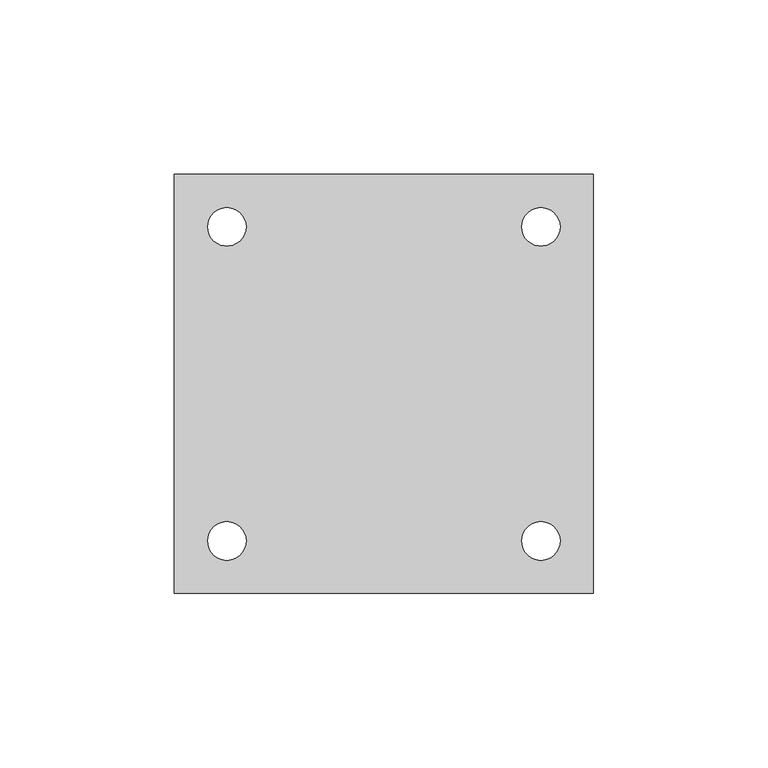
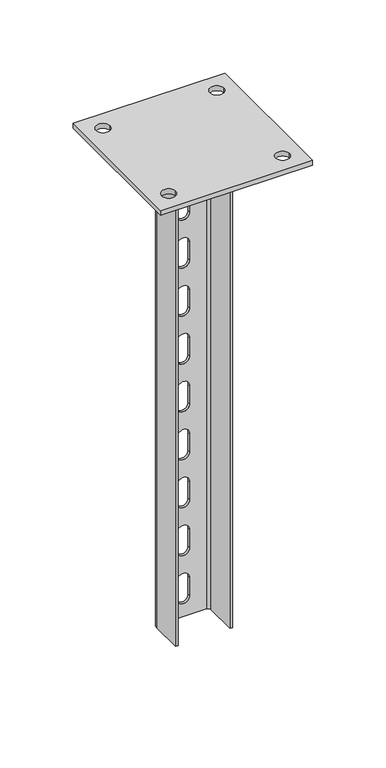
"""IFC4 building model written with IfcOpenShell, lengths in millimetres: proxy geometry, КМ Профиль_Стойка потолочная усиленная PSTU : PSTU400."""

from ifc_helpers import new_model, si_unit, point, frame, frame_2d, origin, place, context, project, spatial, polyline, circle_curve, trimmed, segment, composite_curve, outline, extrude, source, transform, mapped, element, save
from ifc_brep_helpers import plane_surface, cylinder_surface, revolved_surface, advanced_brep


def generic_models_3aaec662(model_context):
    return source(origin(), model_context, "Body", "SolidModel", [
        advanced_brep(
        [(22.5, -15.0, -4.0), (22.5, 11.0, -4.0), (18.5, 15.0, -4.0), (-18.5, 15.0, -4.0), (-22.5, 11.0, -4.0), (-22.5, -15.0, -4.0), (-20.5, -15.0, -4.0), (-20.5, 11.0, -4.0), (-18.5, 13.0, -4.0), (18.5, 13.0, -4.0), (20.5, 11.0, -4.0), (20.5, -15.0, -4.0), (22.5, 11.0, -404.0), (22.5, -15.0, -404.0), (20.5, -15.0, -404.0), (20.5, 11.0, -404.0), (18.5, 13.0, -404.0), (-18.5, 13.0, -404.0), (-20.5, 11.0, -404.0), (-20.5, -15.0, -404.0), (-22.5, -15.0, -404.0), (-22.5, 11.0, -404.0), (-18.5, 15.0, -404.0), (18.5, 15.0, -404.0), (-5.0, 15.0, -53.0), (-5.0, 15.0, -68.0), (5.0, 15.0, -68.0), (5.0, 15.0, -53.0), (-5.0, 15.0, -93.0), (-5.0, 15.0, -108.0), (5.0, 15.0, -108.0), (5.0, 15.0, -93.0), (-5.0, 15.0, -133.0), (-5.0, 15.0, -148.0), (5.0, 15.0, -148.0), (5.0, 15.0, -133.0), (-5.0, 15.0, -173.0), (-5.0, 15.0, -188.0), (5.0, 15.0, -188.0), (5.0, 15.0, -173.0), (-5.0, 15.0, -213.0), (-5.0, 15.0, -228.0), (5.0, 15.0, -228.0), (5.0, 15.0, -213.0), (-5.0, 15.0, -253.0), (-5.0, 15.0, -268.0), (5.0, 15.0, -268.0), (5.0, 15.0, -253.0), (-5.0, 15.0, -293.0), (-5.0, 15.0, -308.0), (5.0, 15.0, -308.0), (5.0, 15.0, -293.0), (-5.0, 15.0, -333.0), (-5.0, 15.0, -348.0), (5.0, 15.0, -348.0), (5.0, 15.0, -333.0), (-5.0, 15.0, -373.0), (-5.0, 15.0, -388.0), (5.0, 15.0, -388.0), (5.0, 15.0, -373.0), (-5.0, 15.0, -13.0), (-5.0, 15.0, -28.0), (5.0, 15.0, -28.0), (5.0, 15.0, -13.0), (-5.0, 13.0, -68.0), (-5.0, 13.0, -53.0), (5.0, 13.0, -53.0), (5.0, 13.0, -68.0), (-5.0, 13.0, -108.0), (-5.0, 13.0, -93.0), (5.0, 13.0, -93.0), (5.0, 13.0, -108.0), (-5.0, 13.0, -148.0), (-5.0, 13.0, -133.0), (5.0, 13.0, -133.0), (5.0, 13.0, -148.0), (-5.0, 13.0, -188.0), (-5.0, 13.0, -173.0), (5.0, 13.0, -173.0), (5.0, 13.0, -188.0), (-5.0, 13.0, -228.0), (-5.0, 13.0, -213.0), (5.0, 13.0, -213.0), (5.0, 13.0, -228.0), (-5.0, 13.0, -268.0), (-5.0, 13.0, -253.0), (5.0, 13.0, -253.0), (5.0, 13.0, -268.0), (-5.0, 13.0, -308.0), (-5.0, 13.0, -293.0), (5.0, 13.0, -293.0), (5.0, 13.0, -308.0), (-5.0, 13.0, -348.0), (-5.0, 13.0, -333.0), (5.0, 13.0, -333.0), (5.0, 13.0, -348.0), (-5.0, 13.0, -388.0), (-5.0, 13.0, -373.0), (5.0, 13.0, -373.0), (5.0, 13.0, -388.0), (-5.0, 13.0, -28.0), (-5.0, 13.0, -13.0), (5.0, 13.0, -13.0), (5.0, 13.0, -28.0)],
        [
            (0, 1),
            (1, 2, circle_curve(frame((18.5, 11.0, -4.0), z_axis=(0.0, 0.0, 1.0), x_axis=(1.0, 0.0, 0.0)), 4.0)),
            (2, 3),
            (3, 4, circle_curve(frame((-18.5, 11.0, -4.0), z_axis=(0.0, 0.0, 1.0), x_axis=(1.0, 0.0, 0.0)), 4.0)),
            (4, 5),
            (5, 6),
            (6, 7),
            (7, 8, circle_curve(frame((-18.5, 11.0, -4.0), z_axis=(0.0, 0.0, -1.0), x_axis=(1.0, 0.0, 0.0)), 2.0)),
            (8, 9),
            (9, 10, circle_curve(frame((18.5, 11.0, -4.0), z_axis=(0.0, 0.0, -1.0), x_axis=(1.0, 0.0, 0.0)), 2.0)),
            (10, 11),
            (11, 0),
            (12, 13),
            (13, 14),
            (14, 15),
            (15, 16, circle_curve(frame((18.5, 11.0, -404.0), z_axis=(0.0, 0.0, 1.0), x_axis=(1.0, 0.0, 0.0)), 2.0)),
            (16, 17),
            (17, 18, circle_curve(frame((-18.5, 11.0, -404.0), z_axis=(0.0, 0.0, 1.0), x_axis=(1.0, 0.0, 0.0)), 2.0)),
            (18, 19),
            (19, 20),
            (20, 21),
            (21, 22, circle_curve(frame((-18.5, 11.0, -404.0), z_axis=(0.0, 0.0, -1.0), x_axis=(1.0, 0.0, 0.0)), 4.0)),
            (22, 23),
            (23, 12, circle_curve(frame((18.5, 11.0, -404.0), z_axis=(0.0, 0.0, -1.0), x_axis=(1.0, 0.0, 0.0)), 4.0)),
            (0, 13),
            (12, 1),
            (23, 2),
            (22, 3),
            (24, 25),
            (25, 26, circle_curve(frame((0.0, 15.0, -68.0), z_axis=(0.0, -1.0, 0.0), x_axis=(0.0, 0.0, -1.0)), 5.0)),
            (26, 27),
            (27, 24, circle_curve(frame((0.0, 15.0, -53.0), z_axis=(0.0, -1.0, 0.0), x_axis=(0.0, 0.0, -1.0)), 5.0)),
            (28, 29),
            (29, 30, circle_curve(frame((0.0, 15.0, -108.0), z_axis=(0.0, -1.0, 0.0), x_axis=(0.0, 0.0, -1.0)), 5.0)),
            (30, 31),
            (31, 28, circle_curve(frame((0.0, 15.0, -93.0), z_axis=(0.0, -1.0, 0.0), x_axis=(0.0, 0.0, -1.0)), 5.0)),
            (32, 33),
            (33, 34, circle_curve(frame((0.0, 15.0, -148.0), z_axis=(0.0, -1.0, 0.0), x_axis=(0.0, 0.0, -1.0)), 5.0)),
            (34, 35),
            (35, 32, circle_curve(frame((0.0, 15.0, -133.0), z_axis=(0.0, -1.0, 0.0), x_axis=(0.0, 0.0, -1.0)), 5.0)),
            (36, 37),
            (37, 38, circle_curve(frame((0.0, 15.0, -188.0), z_axis=(0.0, -1.0, 0.0), x_axis=(0.0, 0.0, -1.0)), 5.0)),
            (38, 39),
            (39, 36, circle_curve(frame((0.0, 15.0, -173.0), z_axis=(0.0, -1.0, 0.0), x_axis=(0.0, 0.0, -1.0)), 5.0)),
            (40, 41),
            (41, 42, circle_curve(frame((0.0, 15.0, -228.0), z_axis=(0.0, -1.0, 0.0), x_axis=(0.0, 0.0, -1.0)), 5.0)),
            (42, 43),
            (43, 40, circle_curve(frame((0.0, 15.0, -213.0), z_axis=(0.0, -1.0, 0.0), x_axis=(0.0, 0.0, -1.0)), 5.0)),
            (44, 45),
            (45, 46, circle_curve(frame((0.0, 15.0, -268.0), z_axis=(0.0, -1.0, 0.0), x_axis=(0.0, 0.0, -1.0)), 5.0)),
            (46, 47),
            (47, 44, circle_curve(frame((0.0, 15.0, -253.0), z_axis=(0.0, -1.0, 0.0), x_axis=(0.0, 0.0, -1.0)), 5.0)),
            (48, 49),
            (49, 50, circle_curve(frame((0.0, 15.0, -308.0), z_axis=(0.0, -1.0, 0.0), x_axis=(0.0, 0.0, -1.0)), 5.0)),
            (50, 51),
            (51, 48, circle_curve(frame((0.0, 15.0, -293.0), z_axis=(0.0, -1.0, 0.0), x_axis=(0.0, 0.0, -1.0)), 5.0)),
            (52, 53),
            (53, 54, circle_curve(frame((0.0, 15.0, -348.0), z_axis=(0.0, -1.0, 0.0), x_axis=(0.0, 0.0, -1.0)), 5.0)),
            (54, 55),
            (55, 52, circle_curve(frame((0.0, 15.0, -333.0), z_axis=(0.0, -1.0, 0.0), x_axis=(0.0, 0.0, -1.0)), 5.0)),
            (56, 57),
            (57, 58, circle_curve(frame((0.0, 15.0, -388.0), z_axis=(0.0, -1.0, 0.0), x_axis=(0.0, 0.0, -1.0)), 5.0)),
            (58, 59),
            (59, 56, circle_curve(frame((0.0, 15.0, -373.0), z_axis=(0.0, -1.0, 0.0), x_axis=(0.0, 0.0, -1.0)), 5.0)),
            (60, 61),
            (61, 62, circle_curve(frame((0.0, 15.0, -28.0), z_axis=(0.0, -1.0, 0.0), x_axis=(0.0, 0.0, -1.0)), 5.0)),
            (62, 63),
            (63, 60, circle_curve(frame((0.0, 15.0, -13.0), z_axis=(0.0, -1.0, 0.0), x_axis=(0.0, 0.0, -1.0)), 5.0)),
            (21, 4),
            (20, 5),
            (19, 6),
            (18, 7),
            (17, 8),
            (16, 9),
            (64, 65),
            (65, 66, circle_curve(frame((0.0, 13.0, -53.0), z_axis=(0.0, 1.0, 0.0), x_axis=(0.0, 0.0, -1.0)), 5.0)),
            (66, 67),
            (67, 64, circle_curve(frame((0.0, 13.0, -68.0), z_axis=(0.0, 1.0, 0.0), x_axis=(0.0, 0.0, -1.0)), 5.0)),
            (68, 69),
            (69, 70, circle_curve(frame((0.0, 13.0, -93.0), z_axis=(0.0, 1.0, 0.0), x_axis=(0.0, 0.0, -1.0)), 5.0)),
            (70, 71),
            (71, 68, circle_curve(frame((0.0, 13.0, -108.0), z_axis=(0.0, 1.0, 0.0), x_axis=(0.0, 0.0, -1.0)), 5.0)),
            (72, 73),
            (73, 74, circle_curve(frame((0.0, 13.0, -133.0), z_axis=(0.0, 1.0, 0.0), x_axis=(0.0, 0.0, -1.0)), 5.0)),
            (74, 75),
            (75, 72, circle_curve(frame((0.0, 13.0, -148.0), z_axis=(0.0, 1.0, 0.0), x_axis=(0.0, 0.0, -1.0)), 5.0)),
            (76, 77),
            (77, 78, circle_curve(frame((0.0, 13.0, -173.0), z_axis=(0.0, 1.0, 0.0), x_axis=(0.0, 0.0, -1.0)), 5.0)),
            (78, 79),
            (79, 76, circle_curve(frame((0.0, 13.0, -188.0), z_axis=(0.0, 1.0, 0.0), x_axis=(0.0, 0.0, -1.0)), 5.0)),
            (80, 81),
            (81, 82, circle_curve(frame((0.0, 13.0, -213.0), z_axis=(0.0, 1.0, 0.0), x_axis=(0.0, 0.0, -1.0)), 5.0)),
            (82, 83),
            (83, 80, circle_curve(frame((0.0, 13.0, -228.0), z_axis=(0.0, 1.0, 0.0), x_axis=(0.0, 0.0, -1.0)), 5.0)),
            (84, 85),
            (85, 86, circle_curve(frame((0.0, 13.0, -253.0), z_axis=(0.0, 1.0, 0.0), x_axis=(0.0, 0.0, -1.0)), 5.0)),
            (86, 87),
            (87, 84, circle_curve(frame((0.0, 13.0, -268.0), z_axis=(0.0, 1.0, 0.0), x_axis=(0.0, 0.0, -1.0)), 5.0)),
            (88, 89),
            (89, 90, circle_curve(frame((0.0, 13.0, -293.0), z_axis=(0.0, 1.0, 0.0), x_axis=(0.0, 0.0, -1.0)), 5.0)),
            (90, 91),
            (91, 88, circle_curve(frame((0.0, 13.0, -308.0), z_axis=(0.0, 1.0, 0.0), x_axis=(0.0, 0.0, -1.0)), 5.0)),
            (92, 93),
            (93, 94, circle_curve(frame((0.0, 13.0, -333.0), z_axis=(0.0, 1.0, 0.0), x_axis=(0.0, 0.0, -1.0)), 5.0)),
            (94, 95),
            (95, 92, circle_curve(frame((0.0, 13.0, -348.0), z_axis=(0.0, 1.0, 0.0), x_axis=(0.0, 0.0, -1.0)), 5.0)),
            (96, 97),
            (97, 98, circle_curve(frame((0.0, 13.0, -373.0), z_axis=(0.0, 1.0, 0.0), x_axis=(0.0, 0.0, -1.0)), 5.0)),
            (98, 99),
            (99, 96, circle_curve(frame((0.0, 13.0, -388.0), z_axis=(0.0, 1.0, 0.0), x_axis=(0.0, 0.0, -1.0)), 5.0)),
            (100, 101),
            (101, 102, circle_curve(frame((0.0, 13.0, -13.0), z_axis=(0.0, 1.0, 0.0), x_axis=(0.0, 0.0, -1.0)), 5.0)),
            (102, 103),
            (103, 100, circle_curve(frame((0.0, 13.0, -28.0), z_axis=(0.0, 1.0, 0.0), x_axis=(0.0, 0.0, -1.0)), 5.0)),
            (15, 10),
            (14, 11),
            (24, 65),
            (64, 25),
            (27, 66),
            (26, 67),
            (28, 69),
            (68, 29),
            (31, 70),
            (30, 71),
            (32, 73),
            (72, 33),
            (35, 74),
            (34, 75),
            (36, 77),
            (76, 37),
            (39, 78),
            (38, 79),
            (40, 81),
            (80, 41),
            (43, 82),
            (42, 83),
            (44, 85),
            (84, 45),
            (47, 86),
            (46, 87),
            (48, 89),
            (88, 49),
            (51, 90),
            (50, 91),
            (52, 93),
            (92, 53),
            (55, 94),
            (54, 95),
            (56, 97),
            (96, 57),
            (59, 98),
            (58, 99),
            (60, 101),
            (100, 61),
            (63, 102),
            (62, 103),
        ],
        [
            plane_surface(frame((22.5, 11.0, -4.0), z_axis=(0.0, 0.0, 1.0), x_axis=(0.0, 1.0, 0.0))),
            plane_surface(frame((22.5, 11.0, -404.0), z_axis=(0.0, 0.0, -1.0), x_axis=(0.0, -1.0, 0.0))),
            plane_surface(frame((22.5, -15.0, -4.0), z_axis=(1.0, 0.0, 0.0), x_axis=(0.0, 0.0, -1.0))),
            cylinder_surface(frame((18.5, 11.0, -404.0), z_axis=(0.0, 0.0, 1.0), x_axis=(1.0, 0.0, 0.0)), 4.0),
            plane_surface(frame((18.5, 15.0, -4.0), z_axis=(0.0, 1.0, 0.0), x_axis=(0.0, 0.0, -1.0))),
            cylinder_surface(frame((-18.5, 11.0, -404.0), z_axis=(0.0, 0.0, 1.0), x_axis=(1.0, 0.0, 0.0)), 4.0),
            plane_surface(frame((-22.5, 11.0, -4.0), z_axis=(-1.0, 0.0, 0.0), x_axis=(0.0, 0.0, -1.0))),
            plane_surface(frame((-22.5, -15.0, -4.0), z_axis=(0.0, -1.0, 0.0), x_axis=(0.0, 0.0, -1.0))),
            plane_surface(frame((-20.5, -15.0, -4.0), z_axis=(1.0, 0.0, 0.0), x_axis=(0.0, 0.0, -1.0))),
            revolved_surface(polyline([(-16.5, 11.0, -404.0), (-16.5, 11.0, -4.0)]), (-18.5, 11.0, -404.0), (0.0, 0.0, -1.0)),
            plane_surface(frame((-18.5, 13.0, -4.0), z_axis=(0.0, -1.0, 0.0), x_axis=(0.0, 0.0, -1.0))),
            revolved_surface(polyline([(20.5, 11.0, -404.0), (20.5, 11.0, -4.0)]), (18.5, 11.0, -404.0), (0.0, 0.0, -1.0)),
            plane_surface(frame((20.5, 11.0, -4.0), z_axis=(-1.0, 0.0, 0.0), x_axis=(0.0, 0.0, -1.0))),
            plane_surface(frame((20.5, -15.0, -4.0), z_axis=(0.0, -1.0, 0.0), x_axis=(0.0, 0.0, -1.0))),
            plane_surface(frame((-5.0, 15.0, -68.0), z_axis=(1.0, 0.0, 0.0), x_axis=(0.0, -1.0, 0.0))),
            revolved_surface(polyline([(0.0, 15.0, -58.0), (0.0, 13.0, -58.0)]), (0.0, 13.0, -53.0), (0.0, 1.0, 0.0)),
            plane_surface(frame((5.0, 15.0, -53.0), z_axis=(-1.0, 0.0, 0.0), x_axis=(0.0, -1.0, 0.0))),
            revolved_surface(polyline([(0.0, 15.0, -73.0), (0.0, 13.0, -73.0)]), (0.0, 13.0, -68.0), (0.0, 1.0, 0.0)),
            plane_surface(frame((-5.0, 15.0, -108.0), z_axis=(1.0, 0.0, 0.0), x_axis=(0.0, -1.0, 0.0))),
            revolved_surface(polyline([(0.0, 15.0, -98.0), (0.0, 13.0, -98.0)]), (0.0, 13.0, -93.0), (0.0, 1.0, 0.0)),
            plane_surface(frame((5.0, 15.0, -93.0), z_axis=(-1.0, 0.0, 0.0), x_axis=(0.0, -1.0, 0.0))),
            revolved_surface(polyline([(0.0, 15.0, -113.0), (0.0, 13.0, -113.0)]), (0.0, 13.0, -108.0), (0.0, 1.0, 0.0)),
            plane_surface(frame((-5.0, 15.0, -148.0), z_axis=(1.0, 0.0, 0.0), x_axis=(0.0, -1.0, 0.0))),
            revolved_surface(polyline([(0.0, 15.0, -138.0), (0.0, 13.0, -138.0)]), (0.0, 13.0, -133.0), (0.0, 1.0, 0.0)),
            plane_surface(frame((5.0, 15.0, -133.0), z_axis=(-1.0, 0.0, 0.0), x_axis=(0.0, -1.0, 0.0))),
            revolved_surface(polyline([(0.0, 15.0, -153.0), (0.0, 13.0, -153.0)]), (0.0, 13.0, -148.0), (0.0, 1.0, 0.0)),
            plane_surface(frame((-5.0, 15.0, -188.0), z_axis=(1.0, 0.0, 0.0), x_axis=(0.0, -1.0, 0.0))),
            revolved_surface(polyline([(0.0, 15.0, -178.0), (0.0, 13.0, -178.0)]), (0.0, 13.0, -173.0), (0.0, 1.0, 0.0)),
            plane_surface(frame((5.0, 15.0, -173.0), z_axis=(-1.0, 0.0, 0.0), x_axis=(0.0, -1.0, 0.0))),
            revolved_surface(polyline([(0.0, 15.0, -193.0), (0.0, 13.0, -193.0)]), (0.0, 13.0, -188.0), (0.0, 1.0, 0.0)),
            plane_surface(frame((-5.0, 15.0, -228.0), z_axis=(1.0, 0.0, 0.0), x_axis=(0.0, -1.0, 0.0))),
            revolved_surface(polyline([(0.0, 15.0, -218.0), (0.0, 13.0, -218.0)]), (0.0, 13.0, -213.0), (0.0, 1.0, 0.0)),
            plane_surface(frame((5.0, 15.0, -213.0), z_axis=(-1.0, 0.0, 0.0), x_axis=(0.0, -1.0, 0.0))),
            revolved_surface(polyline([(0.0, 15.0, -233.0), (0.0, 13.0, -233.0)]), (0.0, 13.0, -228.0), (0.0, 1.0, 0.0)),
            plane_surface(frame((-5.0, 15.0, -268.0), z_axis=(1.0, 0.0, 0.0), x_axis=(0.0, -1.0, 0.0))),
            revolved_surface(polyline([(0.0, 15.0, -258.0), (0.0, 13.0, -258.0)]), (0.0, 13.0, -253.0), (0.0, 1.0, 0.0)),
            plane_surface(frame((5.0, 15.0, -253.0), z_axis=(-1.0, 0.0, 0.0), x_axis=(0.0, -1.0, 0.0))),
            revolved_surface(polyline([(0.0, 15.0, -273.0), (0.0, 13.0, -273.0)]), (0.0, 13.0, -268.0), (0.0, 1.0, 0.0)),
            plane_surface(frame((-5.0, 15.0, -308.0), z_axis=(1.0, 0.0, 0.0), x_axis=(0.0, -1.0, 0.0))),
            revolved_surface(polyline([(0.0, 15.0, -298.0), (0.0, 13.0, -298.0)]), (0.0, 13.0, -293.0), (0.0, 1.0, 0.0)),
            plane_surface(frame((5.0, 15.0, -293.0), z_axis=(-1.0, 0.0, 0.0), x_axis=(0.0, -1.0, 0.0))),
            revolved_surface(polyline([(0.0, 15.0, -313.0), (0.0, 13.0, -313.0)]), (0.0, 13.0, -308.0), (0.0, 1.0, 0.0)),
            plane_surface(frame((-5.0, 15.0, -348.0), z_axis=(1.0, 0.0, 0.0), x_axis=(0.0, -1.0, 0.0))),
            revolved_surface(polyline([(0.0, 15.0, -338.0), (0.0, 13.0, -338.0)]), (0.0, 13.0, -333.0), (0.0, 1.0, 0.0)),
            plane_surface(frame((5.0, 15.0, -333.0), z_axis=(-1.0, 0.0, 0.0), x_axis=(0.0, -1.0, 0.0))),
            revolved_surface(polyline([(0.0, 15.0, -353.0), (0.0, 13.0, -353.0)]), (0.0, 13.0, -348.0), (0.0, 1.0, 0.0)),
            plane_surface(frame((-5.0, 15.0, -388.0), z_axis=(1.0, 0.0, 0.0), x_axis=(0.0, -1.0, 0.0))),
            revolved_surface(polyline([(0.0, 15.0, -378.0), (0.0, 13.0, -378.0)]), (0.0, 13.0, -373.0), (0.0, 1.0, 0.0)),
            plane_surface(frame((5.0, 15.0, -373.0), z_axis=(-1.0, 0.0, 0.0), x_axis=(0.0, -1.0, 0.0))),
            revolved_surface(polyline([(0.0, 15.0, -393.0), (0.0, 13.0, -393.0)]), (0.0, 13.0, -388.0), (0.0, 1.0, 0.0)),
            plane_surface(frame((-5.0, 15.0, -28.0), z_axis=(1.0, 0.0, 0.0), x_axis=(0.0, -1.0, 0.0))),
            revolved_surface(polyline([(0.0, 15.0, -18.0), (0.0, 13.0, -18.0)]), (0.0, 13.0, -13.0), (0.0, 1.0, 0.0)),
            plane_surface(frame((5.0, 15.0, -13.0), z_axis=(-1.0, 0.0, 0.0), x_axis=(0.0, -1.0, 0.0))),
            revolved_surface(polyline([(0.0, 15.0, -33.0), (0.0, 13.0, -33.0)]), (0.0, 13.0, -28.0), (0.0, 1.0, 0.0)),
        ],
        [
            (0, [[1, 2, 3, 4, 5, 6, 7, 8, 9, 10, 11, 12]]),
            (1, [[13, 14, 15, 16, 17, 18, 19, 20, 21, 22, 23, 24]]),
            (2, [[-1, 25, -13, 26]]),
            (3, [[-2, -26, -24, 27]]),
            (4, [[-3, -27, -23, 28], [29, 30, 31, 32], [33, 34, 35, 36], [37, 38, 39, 40], [41, 42, 43, 44], [45, 46, 47, 48], [49, 50, 51, 52], [53, 54, 55, 56], [57, 58, 59, 60], [61, 62, 63, 64], [65, 66, 67, 68]]),
            (5, [[-4, -28, -22, 69]]),
            (6, [[-5, -69, -21, 70]]),
            (7, [[-6, -70, -20, 71]]),
            (8, [[-7, -71, -19, 72]]),
            (9, [[-8, -72, -18, 73]]),
            (10, [[-9, -73, -17, 74], [75, 76, 77, 78], [79, 80, 81, 82], [83, 84, 85, 86], [87, 88, 89, 90], [91, 92, 93, 94], [95, 96, 97, 98], [99, 100, 101, 102], [103, 104, 105, 106], [107, 108, 109, 110], [111, 112, 113, 114]]),
            (11, [[-10, -74, -16, 115]]),
            (12, [[-11, -115, -15, 116]]),
            (13, [[-12, -116, -14, -25]]),
            (14, [[117, -75, 118, -29]]),
            (15, [[-117, -32, 119, -76]]),
            (16, [[-119, -31, 120, -77]]),
            (17, [[-118, -78, -120, -30]]),
            (18, [[121, -79, 122, -33]]),
            (19, [[-121, -36, 123, -80]]),
            (20, [[-123, -35, 124, -81]]),
            (21, [[-122, -82, -124, -34]]),
            (22, [[125, -83, 126, -37]]),
            (23, [[-125, -40, 127, -84]]),
            (24, [[-127, -39, 128, -85]]),
            (25, [[-126, -86, -128, -38]]),
            (26, [[129, -87, 130, -41]]),
            (27, [[-129, -44, 131, -88]]),
            (28, [[-131, -43, 132, -89]]),
            (29, [[-130, -90, -132, -42]]),
            (30, [[133, -91, 134, -45]]),
            (31, [[-133, -48, 135, -92]]),
            (32, [[-135, -47, 136, -93]]),
            (33, [[-134, -94, -136, -46]]),
            (34, [[137, -95, 138, -49]]),
            (35, [[-137, -52, 139, -96]]),
            (36, [[-139, -51, 140, -97]]),
            (37, [[-138, -98, -140, -50]]),
            (38, [[141, -99, 142, -53]]),
            (39, [[-141, -56, 143, -100]]),
            (40, [[-143, -55, 144, -101]]),
            (41, [[-142, -102, -144, -54]]),
            (42, [[145, -103, 146, -57]]),
            (43, [[-145, -60, 147, -104]]),
            (44, [[-147, -59, 148, -105]]),
            (45, [[-146, -106, -148, -58]]),
            (46, [[149, -107, 150, -61]]),
            (47, [[-149, -64, 151, -108]]),
            (48, [[-151, -63, 152, -109]]),
            (49, [[-150, -110, -152, -62]]),
            (50, [[153, -111, 154, -65]]),
            (51, [[-153, -68, 155, -112]]),
            (52, [[-155, -67, 156, -113]]),
            (53, [[-154, -114, -156, -66]]),
        ],
    ),
        extrude(outline(polyline([(-60.0, 60.0), (60.0, 60.0), (60.0, -60.0), (-60.0, -60.0), (-60.0, 60.0)]), holes=[composite_curve([segment(trimmed(circle_curve(frame_2d((-45.0, 45.0)), 5.5), [point((-50.5, 45.0))], [point((-39.5, 45.0))], True, "CARTESIAN"), True, "CONTINUOUS"), segment(trimmed(circle_curve(frame_2d((-45.0, 45.0)), 5.5), [point((-39.5, 45.0))], [point((-50.5, 45.0))], True, "CARTESIAN"), True, "CONTINUOUS")], self_intersect=False), composite_curve([segment(trimmed(circle_curve(frame_2d((45.0, 45.0)), 5.5), [point((39.5, 45.0))], [point((50.5, 45.0))], True, "CARTESIAN"), True, "CONTINUOUS"), segment(trimmed(circle_curve(frame_2d((45.0, 45.0)), 5.5), [point((50.5, 45.0))], [point((39.5, 45.0))], True, "CARTESIAN"), True, "CONTINUOUS")], self_intersect=False), composite_curve([segment(trimmed(circle_curve(frame_2d((45.0, -45.0)), 5.5), [point((39.5, -45.0))], [point((50.5, -45.0))], True, "CARTESIAN"), True, "CONTINUOUS"), segment(trimmed(circle_curve(frame_2d((45.0, -45.0)), 5.5), [point((50.5, -45.0))], [point((39.5, -45.0))], True, "CARTESIAN"), True, "CONTINUOUS")], self_intersect=False), composite_curve([segment(trimmed(circle_curve(frame_2d((-45.0, -45.0)), 5.5), [point((-50.5, -45.0))], [point((-39.5, -45.0))], True, "CARTESIAN"), True, "CONTINUOUS"), segment(trimmed(circle_curve(frame_2d((-45.0, -45.0)), 5.5), [point((-39.5, -45.0))], [point((-50.5, -45.0))], True, "CARTESIAN"), True, "CONTINUOUS")], self_intersect=False)]), frame((0.0, 0.0, -4.0), z_axis=(0.0, 0.0, 1.0), x_axis=(1.0, 0.0, 0.0)), (0.0, 0.0, 1.0), 4.0),
    ])


if __name__ == "__main__":
    model = new_model("IFC4")
    model_context = context("Model", 3, world=origin())
    ifc_project = project(units=[si_unit("LENGTHUNIT", "METRE", prefix="MILLI")], contexts=[model_context])
    site = spatial("IfcSite", under=ifc_project)
    building = spatial("IfcBuilding", under=site)
    placement = place(None, origin())
    generic_models_shape = generic_models_3aaec662(model_context)
    element("IfcBuildingElementProxy", 1, Name="КМ Профиль_Стойка потолочная усиленная PSTU : PSTU400", ObjectType="КМ Профиль_Стойка потолочная усиленная PSTU : PSTU400", at=placement, inside=building, context=model_context, shape_type="MappedRepresentation", body=[
        mapped(generic_models_shape, transform((0.0, 0.0, 0.0), x_axis=(1.0, 0.0, 0.0), y_axis=(0.0, 1.0, 0.0), z_axis=(0.0, 0.0, 1.0))),
    ])
    save(model, "model.ifc")
